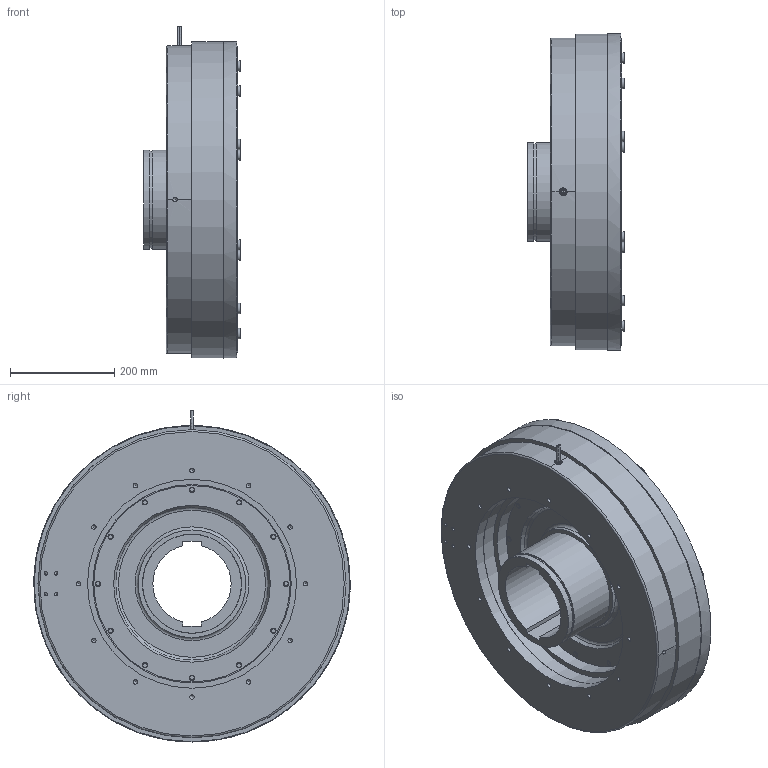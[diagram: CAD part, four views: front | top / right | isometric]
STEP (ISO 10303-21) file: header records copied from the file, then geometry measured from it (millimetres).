
FILE_DESCRIPTION(/* description */ (''),/* implementation_level */ '2;1');
FILE_NAME(/* name */ 'X:\INVENTOR\DISEGNI\08_Freni_Friz_Elettmag_Monodisco\08_26 EMSL_DF\EMSL_DF STEP\08_26_600_21 EMSL600_DF-BM@STEP.stp',/* time_stamp */ '2018-04-24T08:33:22+02:00',/* author */ ('stefano'),/* organization */ (''),/* preprocessor_version */ 'ST-DEVELOPER v17',/* originating_system */ 'Autodesk Inventor 2018',/* authorisation */ '');
FILE_SCHEMA (('AUTOMOTIVE_DESIGN { 1 0 10303 214 3 1 1 }'));
Length unit declared in the file: millimetre
Products named in the file (1): 08_26_600_21 EMSL600_DF-BM_Substitute_1
Bounding box: 185 x 606 x 635.72 mm (x, y, z)
Volume: 24290855.3 mm3; surface area: 2291844.3 mm2
Topology: 3 solids, 3 shells, 777 faces, 2344 edges, 1576 vertices
Faces by surface type: cylinder 349, plane 316, cone 92, torus 17, bspline 3
Full cylindrical faces by diameter (mm): 5 x16, 6.647 x4, 8.376 x13, 10 x12, 14 x16, 15 x1, 16 x12, 16.1 x16, 19.8 x16, 20 x16, 22 x16, 185 x1, 190 x3, 206 x1, 300 x1, 336 x1, 376 x1, 380 x1, 400 x3, 401 x1, 410 x1, 452 x2, 468 x1, 550 x1, 566 x2, 590 x1, 605 x1, 606 x1
Entity records: 27996 total; most frequent: DIRECTION 5125, CARTESIAN_POINT 5077, ORIENTED_EDGE 4634, EDGE_CURVE 2317, AXIS2_PLACEMENT_3D 2127, VERTEX_POINT 1576, CIRCLE 1352, EDGE_LOOP 965
